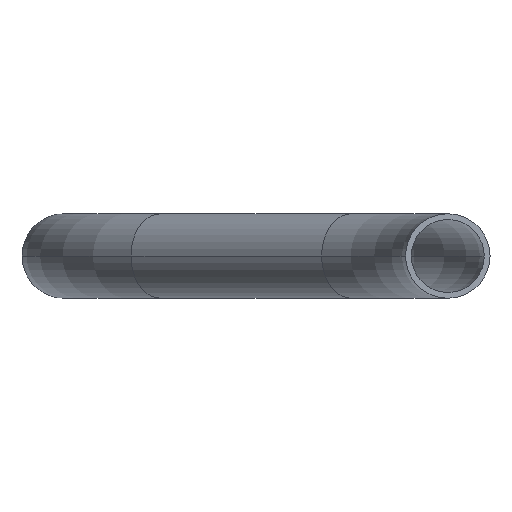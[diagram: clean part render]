
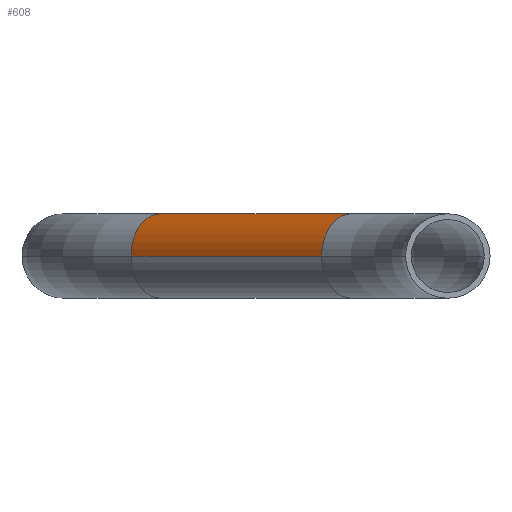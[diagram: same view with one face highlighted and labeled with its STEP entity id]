
A CAD part, left-side view. The second image highlights one B-rep face of the part: STEP entity #608.
In plain terms, the highlighted cylindrical face has radius 11 mm (diameter 22 mm), a partial arc.
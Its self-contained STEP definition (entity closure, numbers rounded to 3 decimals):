
#30 = CYLINDRICAL_SURFACE ( 'NONE', #201, 11. ) ;
#39 = FACE_OUTER_BOUND ( 'NONE', #538, .T. ) ;
#80 = ORIENTED_EDGE ( 'NONE', *, *, #272, .T. ) ;
#115 = ORIENTED_EDGE ( 'NONE', *, *, #284, .T. ) ;
#123 = ORIENTED_EDGE ( 'NONE', *, *, #255, .F. ) ;
#144 = CIRCLE ( 'NONE', #221, 11. ) ;
#201 = AXIS2_PLACEMENT_3D ( 'NONE', #358, #359, #353 ) ;
#221 = AXIS2_PLACEMENT_3D ( 'NONE', #437, #428, #439 ) ;
#232 = AXIS2_PLACEMENT_3D ( 'NONE', #465, #424, #423 ) ;
#255 = EDGE_CURVE ( 'NONE', #559, #583, #521, .T. ) ;
#267 = EDGE_CURVE ( 'NONE', #568, #559, #482, .T. ) ;
#272 = EDGE_CURVE ( 'NONE', #568, #555, #696, .T. ) ;
#284 = EDGE_CURVE ( 'NONE', #555, #583, #144, .T. ) ;
#297 = CARTESIAN_POINT ( 'NONE',  ( 248.334, 82.598, 0. ) ) ;
#302 = CARTESIAN_POINT ( 'NONE',  ( 199.044, 32.893, 0. ) ) ;
#306 = CARTESIAN_POINT ( 'NONE',  ( 263.956, 67.107, 0. ) ) ;
#328 = DIRECTION ( 'NONE',  ( -0.704, -0.71, 0. ) ) ;
#340 = CARTESIAN_POINT ( 'NONE',  ( 214.666, 17.402, 0. ) ) ;
#353 = DIRECTION ( 'NONE',  ( 0.71, -0.704, 0. ) ) ;
#358 = CARTESIAN_POINT ( 'NONE',  ( 256.145, 74.852, 0. ) ) ;
#359 = DIRECTION ( 'NONE',  ( -0.704, -0.71, 0. ) ) ;
#406 = CARTESIAN_POINT ( 'NONE',  ( 263.956, 67.107, 0. ) ) ;
#412 = CARTESIAN_POINT ( 'NONE',  ( 248.334, 82.598, 0. ) ) ;
#414 = DIRECTION ( 'NONE',  ( -0.704, -0.71, 0. ) ) ;
#423 = DIRECTION ( 'NONE',  ( -0.71, 0.704, 0. ) ) ;
#424 = DIRECTION ( 'NONE',  ( 0.704, 0.71, 0. ) ) ;
#428 = DIRECTION ( 'NONE',  ( 0.704, 0.71, 0. ) ) ;
#437 = CARTESIAN_POINT ( 'NONE',  ( 206.855, 25.148, 0. ) ) ;
#439 = DIRECTION ( 'NONE',  ( -0.71, 0.704, 0. ) ) ;
#465 = CARTESIAN_POINT ( 'NONE',  ( 256.145, 74.852, 0. ) ) ;
#482 = CIRCLE ( 'NONE', #232, 11. ) ;
#510 = VECTOR ( 'NONE', #414, 1000. ) ;
#521 = LINE ( 'NONE', #406, #510 ) ;
#538 = EDGE_LOOP ( 'NONE', ( #580, #80, #115, #123 ) ) ;
#555 = VERTEX_POINT ( 'NONE', #302 ) ;
#559 = VERTEX_POINT ( 'NONE', #306 ) ;
#568 = VERTEX_POINT ( 'NONE', #297 ) ;
#580 = ORIENTED_EDGE ( 'NONE', *, *, #267, .F. ) ;
#583 = VERTEX_POINT ( 'NONE', #340 ) ;
#608 = ADVANCED_FACE ( 'NONE', ( #39 ), #30, .T. ) ;
#694 = VECTOR ( 'NONE', #328, 1000. ) ;
#696 = LINE ( 'NONE', #412, #694 ) ;
